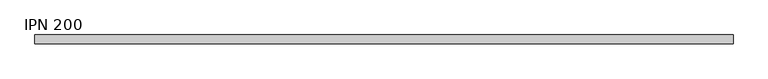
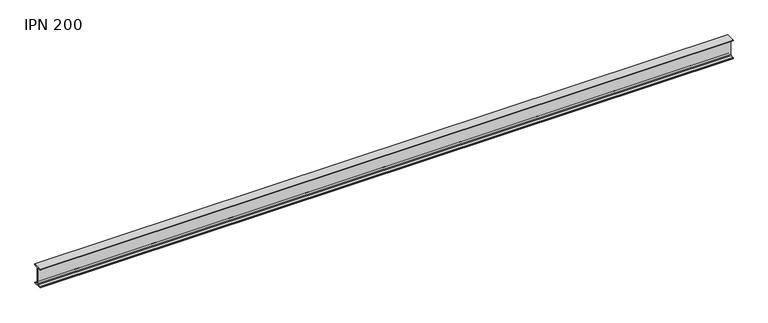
"""IFC4 building model written with IfcOpenShell, lengths in millimetres: beam geometry, IPN - Secciones en I con alas cónicas : IPN 200."""

from ifc_helpers import new_model, si_unit, point, frame, frame_2d, origin, place, context, project, spatial, polyline, circle_curve, trimmed, segment, composite_curve, outline, extrude, source, transform, mapped, element, save


def ipn_200_14f106e9(model_context):
    return source(origin(), model_context, "Body", "SweptSolid", [
        extrude(outline(composite_curve([segment(polyline([(45.0, 100.0), (45.0, 95.763886)]), True, "CONTINUOUS"), segment(trimmed(circle_curve(frame_2d((40.5, 95.763886)), 4.5), [point((45.0, 95.763886))], [point((41.1239153, 91.3073481))], False, "CARTESIAN"), True, "CONTINUOUS"), segment(polyline([(41.1239153, 91.3073481), (10.2101412, 86.9794198)]), True, "CONTINUOUS"), segment(trimmed(circle_curve(frame_2d((11.25, 79.5518567)), 7.5), [point((10.2101412, 86.9794198))], [point((3.75, 79.5518567))], True, "CARTESIAN"), True, "CONTINUOUS"), segment(polyline([(3.75, 79.5518567), (3.75, -79.5518567)]), True, "CONTINUOUS"), segment(trimmed(circle_curve(frame_2d((11.25, -79.5518567)), 7.5), [point((3.75, -79.5518567))], [point((10.2101412, -86.9794198))], True, "CARTESIAN"), True, "CONTINUOUS"), segment(polyline([(10.2101412, -86.9794198), (41.1239153, -91.3073481)]), True, "CONTINUOUS"), segment(trimmed(circle_curve(frame_2d((40.5, -95.763886)), 4.5), [point((41.1239153, -91.3073481))], [point((45.0, -95.763886))], False, "CARTESIAN"), True, "CONTINUOUS"), segment(polyline([(45.0, -95.763886), (45.0, -100.0), (-45.0, -100.0), (-45.0, -95.763886)]), True, "CONTINUOUS"), segment(trimmed(circle_curve(frame_2d((-40.5, -95.763886)), 4.5), [point((-45.0, -95.763886))], [point((-41.1239153, -91.3073481))], False, "CARTESIAN"), True, "CONTINUOUS"), segment(polyline([(-41.1239153, -91.3073481), (-10.2101412, -86.9794198)]), True, "CONTINUOUS"), segment(trimmed(circle_curve(frame_2d((-11.25, -79.5518567)), 7.5), [point((-10.2101412, -86.9794198))], [point((-3.75, -79.5518567))], True, "CARTESIAN"), True, "CONTINUOUS"), segment(polyline([(-3.75, -79.5518567), (-3.75, 79.5518567)]), True, "CONTINUOUS"), segment(trimmed(circle_curve(frame_2d((-11.25, 79.5518567)), 7.5), [point((-3.75, 79.5518567))], [point((-10.2101412, 86.9794198))], True, "CARTESIAN"), True, "CONTINUOUS"), segment(polyline([(-10.2101412, 86.9794198), (-41.1239153, 91.3073481)]), True, "CONTINUOUS"), segment(trimmed(circle_curve(frame_2d((-40.5, 95.763886)), 4.5), [point((-41.1239153, 91.3073481))], [point((-45.0, 95.763886))], False, "CARTESIAN"), True, "CONTINUOUS"), segment(polyline([(-45.0, 95.763886), (-45.0, 100.0), (45.0, 100.0)]), True, "CONTINUOUS")], self_intersect=False)), frame((-3604.0, 0.0, 0.0), z_axis=(1.0, 0.0, 0.0), x_axis=(0.0, 1.0, 0.0)), (0.0, 0.0, 1.0), 6995.0),
    ])


if __name__ == "__main__":
    model = new_model("IFC4")
    model_context = context("Model", 3, world=origin())
    ifc_project = project(units=[si_unit("LENGTHUNIT", "METRE", prefix="MILLI")], contexts=[model_context])
    site = spatial("IfcSite", under=ifc_project)
    building = spatial("IfcBuilding", under=site)
    placement = place(None, origin())
    ipn_200_shape = ipn_200_14f106e9(model_context)
    element("IfcBeam", 1, ObjectType="IPN - Secciones en I con alas cónicas : IPN 200", at=placement, inside=building, context=model_context, shape_type="MappedRepresentation", body=[
        mapped(ipn_200_shape, transform((0.0, 0.0, 0.0), x_axis=(1.0, 0.0, 0.0), y_axis=(0.0, 1.0, 0.0), z_axis=(0.0, 0.0, 1.0))),
    ])
    save(model, "model.ifc")
